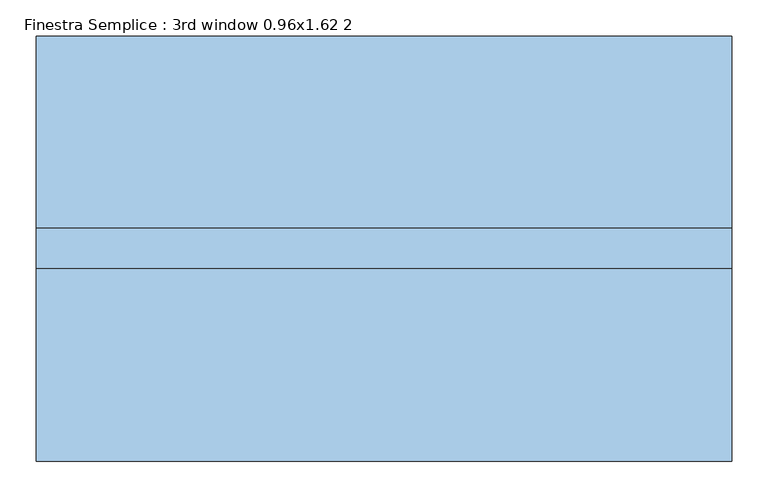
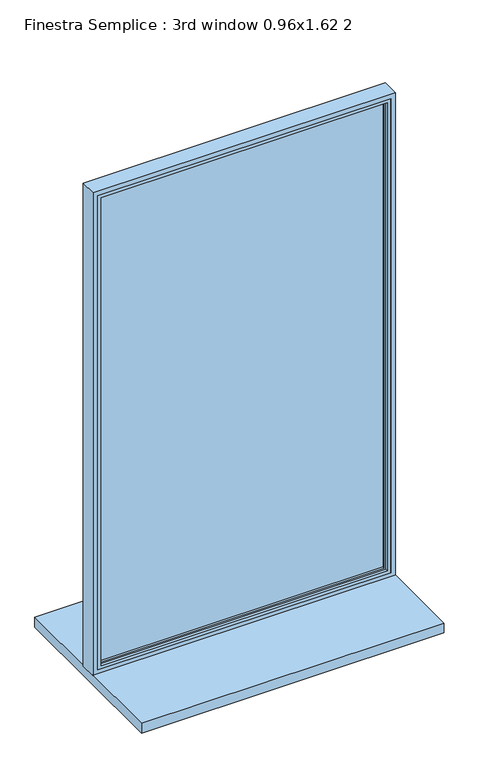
"""IFC4 building model written with IfcOpenShell, lengths in millimetres: window geometry, Finestra Semplice : 3rd window 0.96x1.62 2."""

from ifc_helpers import new_model, si_unit, frame, origin, place, context, project, spatial, polyline, ellipse_curve, outline, extrude, faceted_brep, source, transform, mapped, element, save
from ifc_brep_helpers import plane_surface, cylinder_surface, advanced_brep


def finestra_semplice_3rd_window_0_96x1_62_2_9ac10fb0(model_context):
    return source(origin(), model_context, "Body", "SolidModel", [
        extrude(outline(polyline([(450.0, -3.0), (-450.0, -3.0), (-450.0, 9.8627388), (450.0, 9.8627388), (450.0, -3.0)])), frame((0.0, 0.0, 830.0), z_axis=(0.0, 0.0, 1.0), x_axis=(1.0, 0.0, 0.0)), (0.0, 0.0, 1.0), 1560.0),
        faceted_brep([(-465.0, -20.0, 2405.0), (-465.0, 20.0, 2405.0), (-465.0, 20.0, 815.0), (-465.0, -20.0, 815.0), (465.0, 20.0, 2405.0), (465.0, 20.0, 815.0), (-450.0, 20.0, 2390.0), (-450.0, 20.0, 830.0), (450.0, 20.0, 830.0), (450.0, 20.0, 2390.0), (465.0, -20.0, 815.0), (465.0, -20.0, 2405.0), (455.0, -20.0, 2395.0), (455.0, -20.0, 825.0), (-455.0, -20.0, 825.0), (-455.0, -20.0, 2395.0), (-455.0, -10.0, 2395.0), (-455.0, -10.0, 825.0), (455.0, -10.0, 825.0), (455.0, -10.0, 2395.0), (450.0, -10.0, 2390.0), (450.0, -10.0, 830.0), (-450.0, -10.0, 830.0), (-450.0, -10.0, 2390.0)], [[[0, 1, 2, 3]], [[4, 5, 2, 1], [6, 7, 8, 9]], [[3, 2, 5, 10]], [[0, 3, 10, 11], [12, 13, 14, 15]], [[16, 15, 14, 17]], [[17, 14, 13, 18]], [[16, 17, 18, 19], [20, 21, 22, 23]], [[6, 23, 22, 7]], [[7, 22, 21, 8]], [[10, 5, 4, 11]], [[18, 13, 12, 19]], [[8, 21, 20, 9]], [[11, 4, 1, 0]], [[19, 12, 15, 16]], [[9, 20, 23, 6]]]),
        advanced_brep(
        [(-480.0, 35.0, 2420.0), (-480.0, 35.0, 800.0), (-480.0, -20.0, 800.0), (-480.0, -20.0, 2420.0), (480.0, 35.0, 2420.0), (480.0, 35.0, 800.0), (-460.0, 35.0, 820.0), (460.0, 35.0, 820.0), (460.0, 35.0, 2400.0), (-460.0, 35.0, 2400.0), (480.0, -20.0, 800.0), (480.0, -20.0, 2420.0), (-465.0, -20.0, 2405.0), (465.0, -20.0, 2405.0), (465.0, -20.0, 815.0), (-465.0, -20.0, 815.0), (-465.0, 20.0, 2405.0), (-465.0, 20.0, 815.0), (465.0, 20.0, 815.0), (465.0, 20.0, 2405.0), (-455.0, 20.0, 2395.0), (455.0, 20.0, 2395.0), (455.0, 20.0, 825.0), (-455.0, 20.0, 825.0), (-455.0, 30.0, 2395.0), (-455.0, 30.0, 825.0), (455.0, 30.0, 825.0), (455.0, 30.0, 2395.0)],
        [
            (0, 1),
            (1, 2),
            (2, 3),
            (3, 0),
            (0, 4),
            (4, 5),
            (5, 1),
            (6, 7),
            (7, 8),
            (8, 9),
            (9, 6),
            (5, 10),
            (10, 2),
            (10, 11),
            (11, 3),
            (12, 13),
            (13, 14),
            (14, 15),
            (15, 12),
            (16, 12),
            (15, 17),
            (17, 16),
            (14, 18),
            (18, 17),
            (18, 19),
            (19, 16),
            (20, 21),
            (21, 22),
            (22, 23),
            (23, 20),
            (24, 20),
            (23, 25),
            (25, 24),
            (22, 26),
            (26, 25),
            (9, 24, ellipse_curve(frame((-460.0, 30.0, 2400.0), z_axis=(-0.7071067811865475, 0.0, -0.7071067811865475), x_axis=(-0.7071067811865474, 0.0, 0.7071067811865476)), 7.0710678, 5.0)),
            (25, 6, ellipse_curve(frame((-460.0, 30.0, 820.0), z_axis=(-0.7071067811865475, 0.0, 0.7071067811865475), x_axis=(0.7071067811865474, 0.0, 0.7071067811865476)), 7.0710678, 5.0)),
            (26, 7, ellipse_curve(frame((460.0, 30.0, 820.0), z_axis=(-0.7071067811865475, 0.0, -0.7071067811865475), x_axis=(-0.7071067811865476, 0.0, 0.7071067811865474)), 7.0710678, 5.0)),
            (4, 11),
            (13, 19),
            (21, 27),
            (27, 26),
            (27, 8, ellipse_curve(frame((460.0, 30.0, 2400.0), z_axis=(0.7071067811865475, 0.0, -0.7071067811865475), x_axis=(-0.7071067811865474, 0.0, -0.7071067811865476)), 7.0710678, 5.0)),
            (24, 27),
        ],
        [
            plane_surface(frame((-480.0, 0.0, 2420.0), z_axis=(-1.0, 0.0, 0.0), x_axis=(0.0, 0.0, -1.0))),
            plane_surface(frame((460.0, 35.0, 2400.0), z_axis=(0.0, 1.0, 0.0), x_axis=(-1.0, 0.0, 0.0))),
            plane_surface(frame((-480.0, 0.0, 800.0), z_axis=(0.0, 0.0, -1.0), x_axis=(1.0, 0.0, 0.0))),
            plane_surface(frame((480.0, -20.0, 2420.0), z_axis=(0.0, -1.0, 0.0), x_axis=(-1.0, 0.0, 0.0))),
            plane_surface(frame((-465.0, -20.0, 2405.0), z_axis=(1.0, 0.0, 0.0), x_axis=(0.0, 0.0, -1.0))),
            plane_surface(frame((-465.0, -20.0, 815.0), z_axis=(0.0, 0.0, 1.0), x_axis=(1.0, 0.0, 0.0))),
            plane_surface(frame((465.0, 20.0, 2405.0), z_axis=(0.0, -1.0, 0.0), x_axis=(-1.0, 0.0, 0.0))),
            plane_surface(frame((-455.0, 20.0, 2395.0), z_axis=(1.0, 0.0, 0.0), x_axis=(0.0, 0.0, -1.0))),
            plane_surface(frame((-455.0, 20.0, 825.0), z_axis=(0.0, 0.0, 1.0), x_axis=(1.0, 0.0, 0.0))),
            cylinder_surface(frame((-460.0, 30.0, 2420.0), z_axis=(0.0, 0.0, 1.0), x_axis=(1.0, 0.0, 0.0)), 5.0),
            cylinder_surface(frame((-480.0, 30.0, 820.0), z_axis=(-1.0, 0.0, 0.0), x_axis=(0.0, 0.0, 1.0)), 5.0),
            plane_surface(frame((480.0, 0.0, 800.0), z_axis=(1.0, 0.0, 0.0), x_axis=(0.0, 0.0, 1.0))),
            plane_surface(frame((465.0, -20.0, 815.0), z_axis=(-1.0, 0.0, 0.0), x_axis=(0.0, 0.0, 1.0))),
            plane_surface(frame((455.0, 20.0, 825.0), z_axis=(-1.0, 0.0, 0.0), x_axis=(0.0, 0.0, 1.0))),
            cylinder_surface(frame((460.0, 30.0, 800.0), z_axis=(0.0, 0.0, -1.0), x_axis=(-1.0, 0.0, 0.0)), 5.0),
            plane_surface(frame((480.0, 0.0, 2420.0), z_axis=(0.0, 0.0, 1.0), x_axis=(-1.0, 0.0, 0.0))),
            plane_surface(frame((465.0, -20.0, 2405.0), z_axis=(0.0, 0.0, -1.0), x_axis=(-1.0, 0.0, 0.0))),
            plane_surface(frame((455.0, 20.0, 2395.0), z_axis=(0.0, 0.0, -1.0), x_axis=(-1.0, 0.0, 0.0))),
            cylinder_surface(frame((480.0, 30.0, 2400.0), z_axis=(1.0, 0.0, 0.0), x_axis=(0.0, 0.0, -1.0)), 5.0),
        ],
        [
            (0, [[1, 2, 3, 4]]),
            (1, [[5, 6, 7, -1], [8, 9, 10, 11]]),
            (2, [[-2, -7, 12, 13]]),
            (3, [[-13, 14, 15, -3], [16, 17, 18, 19]]),
            (4, [[20, -19, 21, 22]]),
            (5, [[-21, -18, 23, 24]]),
            (6, [[-24, 25, 26, -22], [27, 28, 29, 30]]),
            (7, [[31, -30, 32, 33]]),
            (8, [[-32, -29, 34, 35]]),
            (9, [[36, -33, 37, -11]]),
            (10, [[-37, -35, 38, -8]]),
            (11, [[-12, -6, 39, -14]]),
            (12, [[-23, -17, 40, -25]]),
            (13, [[-34, -28, 41, 42]]),
            (14, [[-38, -42, 43, -9]]),
            (15, [[-39, -5, -4, -15]]),
            (16, [[-40, -16, -20, -26]]),
            (17, [[-41, -27, -31, 44]]),
            (18, [[-43, -44, -36, -10]]),
        ],
    ),
        extrude(outline(polyline([(480.0, -286.4372612), (-480.0, -286.4372612), (-480.0, 300.1627389), (480.0, 300.1627389), (480.0, -286.4372612)])), frame((0.0, 0.0, 770.0), z_axis=(0.0, 0.0, 1.0), x_axis=(1.0, 0.0, 0.0)), (0.0, 0.0, 1.0), 33.0),
    ])


if __name__ == "__main__":
    model = new_model("IFC4")
    model_context = context("Model", 3, world=origin())
    ifc_project = project(units=[si_unit("LENGTHUNIT", "METRE", prefix="MILLI")], contexts=[model_context])
    site = spatial("IfcSite", under=ifc_project)
    building = spatial("IfcBuilding", under=site)
    placement = place(None, origin())
    finestra_semplice_3rd_window_0_96x1_62_2_shape = finestra_semplice_3rd_window_0_96x1_62_2_9ac10fb0(model_context)
    element("IfcWindow", 1, ObjectType="Finestra Semplice : 3rd window 0.96x1.62 2", at=placement, inside=building, context=model_context, shape_type="MappedRepresentation", body=[
        mapped(finestra_semplice_3rd_window_0_96x1_62_2_shape, transform((0.0, 0.0, 0.0), x_axis=(1.0, 0.0, 0.0), y_axis=(0.0, 1.0, 0.0), z_axis=(0.0, 0.0, 1.0))),
    ])
    save(model, "model.ifc")
